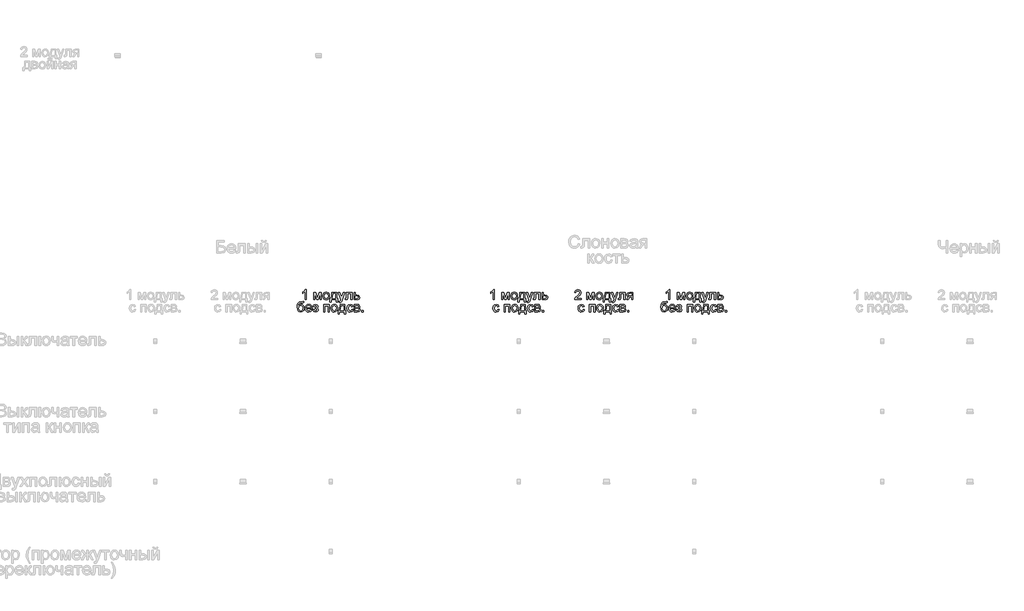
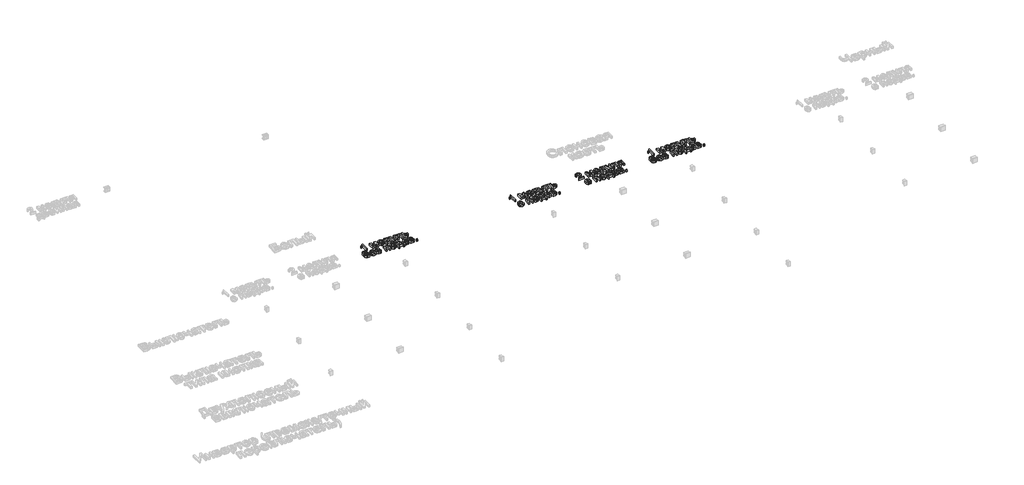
# One storey, part 20 of 47: 4 proxies.
"""IFC4 building model written with IfcOpenShell, lengths in millimetres."""

from ifc_helpers import new_model, si_unit, origin, origin_with_axes, place, context, project, spatial, polyline, outline, extrude, element, save

model = new_model("IFC4")

# Units and contexts
model_context = context("Model", 3, world=origin())
ifc_project = project(units=[si_unit("LENGTHUNIT", "METRE", prefix="MILLI")], contexts=[model_context])

# Site, building, storey
site = spatial("IfcSite", under=ifc_project)
building = spatial("IfcBuilding", under=site)
storey = spatial("IfcBuildingStorey", under=building, Name="Этаж 01", Elevation=0.0)

# Proxies
placement = place(None, origin())
element("IfcBuildingElementProxy", 1, Name="80 мм Arial", ObjectType="80 мм Arial", at=placement, inside=storey, context=model_context, shape_type="SweptSolid", body=[
    extrude(outline(polyline([(1510.6688941, -28300.056116), (1500.6232631, -28300.056116), (1500.6232631, -28237.4278852), (1491.1073822, -28244.2067241), (1480.5320011, -28249.2785905), (1480.5320011, -28239.78233), (1495.2570911, -28230.3841713), (1504.194171, -28219.6910679), (1510.6688941, -28219.6910679), (1510.6688941, -28300.056116)])), origin_with_axes(), (0.0, 0.0, 1.0), 20.0),
    extrude(outline(polyline([(1568.4312724, -28241.0380338), (1585.7168211, -28241.0380338), (1599.0390544, -28288.2838922), (1613.4011675, -28241.0380338), (1629.9607624, -28241.0380338), (1629.9607624, -28300.056116), (1619.9151314, -28300.056116), (1619.9151314, -28252.5355725), (1605.4745368, -28300.056116), (1592.2896461, -28300.056116), (1578.4769035, -28250.2596092), (1578.4769035, -28300.056116), (1568.4312724, -28300.056116), (1568.4312724, -28241.0380338)])), origin_with_axes(), (0.0, 0.0, 1.0), 20.0),
    extrude(outline(polyline([(1642.5178012, -28270.5470749), (1644.6907575, -28256.3173994), (1651.2096265, -28246.3159142), (1659.2637896, -28241.415726), (1668.907203, -28239.78233), (1679.4605111, -28241.7713453), (1687.8899139, -28247.7383912), (1693.4155015, -28257.2125789), (1695.257364, -28269.7230193), (1692.0003821, -28287.5971791), (1682.5139317, -28297.7114815), (1668.907203, -28301.3118199), (1658.2263624, -28299.3301622), (1649.8067698, -28293.3851892), (1644.3400433, -28283.7123453), (1642.5178012, -28270.5470749)]), holes=[polyline([(1652.5634322, -28270.5274546), (1657.2134606, -28286.0962206), (1668.907203, -28291.2661889), (1680.5617046, -28286.06679), (1685.211733, -28270.2135286), (1680.532274, -28254.9979293), (1668.907203, -28249.827961), (1657.2134606, -28254.9783089), (1652.5634322, -28270.5274546)])]), origin_with_axes(), (0.0, 0.0, 1.0), 20.0),
    extrude(outline(polyline([(1715.348626, -28241.0380338), (1753.0197423, -28241.0380338), (1753.0197423, -28290.010485), (1760.5539656, -28290.010485), (1760.5539656, -28316.3802664), (1750.5083346, -28316.3802664), (1750.5083346, -28300.056116), (1709.0701067, -28300.056116), (1709.0701067, -28316.3802664), (1699.0244756, -28316.3802664), (1699.0244756, -28290.010485), (1705.302995, -28290.010485), (1713.0628526, -28270.8511907), (1715.348626, -28241.0380338)]), holes=[polyline([(1724.1385532, -28251.0836649), (1721.7841084, -28273.97083), (1716.6043299, -28290.010485), (1742.9741113, -28290.010485), (1742.9741113, -28251.0836649), (1724.1385532, -28251.0836649)])]), origin_with_axes(), (0.0, 0.0, 1.0), 20.0),
    extrude(outline(polyline([(1771.8553005, -28322.6587858), (1770.5995966, -28312.9859419), (1775.7008936, -28313.8688587), (1780.4686443, -28312.7603076), (1783.3920799, -28309.6700989), (1786.1389321, -28302.2732182), (1786.923747, -28299.8402919), (1765.5767811, -28241.0380338), (1776.1717826, -28241.0380338), (1787.4927378, -28273.8040569), (1791.4364328, -28286.9104661), (1795.3801278, -28275.334446), (1807.0150091, -28241.0380338), (1817.531529, -28241.0380338), (1796.9889984, -28301.4687829), (1791.6522569, -28314.5751921), (1785.8250061, -28321.6581468), (1777.9964773, -28323.9144897), (1771.8553005, -28322.6587858)])), origin_with_axes(), (0.0, 0.0, 1.0), 20.0),
    extrude(outline(polyline([(1830.8733827, -28241.0380338), (1876.0787223, -28241.0380338), (1876.0787223, -28299.9972549), (1866.0330913, -28299.9972549), (1866.0330913, -28251.0836649), (1840.9190137, -28251.0836649), (1840.9190137, -28279.2389002), (1840.2421109, -28292.2275872), (1836.5240502, -28297.7114815), (1827.734123, -28300.056116), (1819.5720478, -28299.5459863), (1819.5720478, -28290.010485), (1824.0651133, -28290.010485), (1828.6072296, -28289.3924433), (1830.4221141, -28287.430406), (1830.8733827, -28278.6699094), (1830.8733827, -28241.0380338)])), origin_with_axes(), (0.0, 0.0, 1.0), 20.0),
    extrude(outline(polyline([(1891.1471688, -28241.0380338), (1901.1927998, -28241.0380338), (1901.1927998, -28262.3849997), (1912.7688199, -28262.3849997), (1930.230952, -28267.4176254), (1934.8221193, -28273.4042918), (1936.3525084, -28281.2990394), (1931.1432993, -28294.5526014), (1924.3718181, -28298.6802374), (1914.4757924, -28300.056116), (1891.1471688, -28300.056116), (1891.1471688, -28241.0380338)]), holes=[polyline([(1901.1927998, -28290.010485), (1910.5713381, -28290.010485), (1922.6869185, -28287.9012949), (1926.3068774, -28281.3186598), (1923.6286964, -28275.1382422), (1911.7681809, -28272.4306308), (1901.1927998, -28272.4306308), (1901.1927998, -28290.010485)])]), origin_with_axes(), (0.0, 0.0, 1.0), 20.0),
    extrude(outline(polyline([(1482.4155569, -28316.0152183), (1491.205484, -28316.0152183), (1488.6155948, -28323.8535574), (1483.4946774, -28326.6887013), (1471.1927035, -28327.3165532), (1454.6232984, -28329.6317572), (1448.2662975, -28337.0482583), (1446.1178667, -28350.1742879), (1454.8195022, -28340.560305), (1466.0325454, -28337.3621842), (1476.4852991, -28339.3953454), (1484.9662054, -28345.4948289), (1490.5874423, -28355.0622133), (1492.4611879, -28367.4990773), (1488.7431272, -28384.784626), (1479.9237695, -28395.2128543), (1466.0325454, -28398.8916742), (1450.1694737, -28394.1533541), (1441.4874586, -28382.0279635), (1438.4659212, -28356.2958443), (1440.3715499, -28337.0212803), (1446.0884361, -28325.2662242), (1455.7588275, -28319.2697477), (1469.5249718, -28317.2709222), (1480.7085844, -28317.0452879), (1482.4155569, -28316.0152183)]), holes=[polyline([(1482.4155569, -28367.1851513), (1478.0598341, -28352.9505706), (1472.8113843, -28348.7935041), (1465.7774805, -28347.4078153), (1458.4443661, -28348.8719856), (1453.0046176, -28353.2644966), (1448.5115522, -28368.9117441), (1453.4755066, -28383.7153156), (1465.7186194, -28388.8460432), (1472.4533125, -28387.3622525), (1477.7851488, -28382.9108803), (1482.4155569, -28367.1851513)])]), origin_with_axes(), (0.0, 0.0, 1.0), 20.0),
    extrude(outline(polyline([(1546.3387324, -28380.056116), (1556.1881596, -28381.3118199), (1546.9763945, -28394.2808865), (1529.8183782, -28398.8916742), (1518.0314391, -28396.9026589), (1508.9619217, -28390.9356129), (1503.1788167, -28381.3780387), (1501.251115, -28368.6174385), (1503.1984371, -28355.4276427), (1509.0404031, -28345.5635002), (1517.9872933, -28339.4125132), (1529.2493874, -28337.3621842), (1540.1607674, -28339.4076081), (1548.8795707, -28345.5438798), (1554.5964569, -28355.388402), (1556.5020856, -28368.5585774), (1556.4432245, -28371.2661889), (1511.2967461, -28371.2661889), (1517.0749459, -28384.313737), (1530.014582, -28388.8460432), (1539.8640092, -28386.7466633), (1546.3387324, -28380.056116)]), holes=[polyline([(1511.2967461, -28361.2205579), (1546.4564546, -28361.2205579), (1542.4342781, -28352.1167048), (1529.2101467, -28347.4078153), (1516.8395014, -28351.1651167), (1511.2967461, -28361.2205579)])]), origin_with_axes(), (0.0, 0.0, 1.0), 20.0),
    extrude(outline(polyline([(1580.3604593, -28371.2661889), (1580.3604593, -28361.2205579), (1588.28709, -28360.8281504), (1592.2896461, -28358.7385807), (1594.1732019, -28354.3730477), (1591.651984, -28349.3011813), (1585.1478303, -28347.4078153), (1578.4278525, -28349.2913711), (1574.0819399, -28354.9420385), (1562.780605, -28353.6863346), (1570.3344486, -28341.4432218), (1584.1275709, -28337.3621842), (1598.8820915, -28342.3359488), (1604.2188329, -28354.2160847), (1602.3205618, -28360.4553633), (1596.6257486, -28365.2819751), (1603.2672448, -28371.5408741), (1605.4745368, -28380.5466254), (1604.0741327, -28387.9410535), (1599.8729203, -28393.8001874), (1584.2060524, -28398.8916742), (1568.7550086, -28394.1827847), (1561.5249011, -28380.056116), (1572.826236, -28378.8004122), (1577.3585422, -28386.2169132), (1585.1674507, -28388.8460432), (1592.5054702, -28386.3248252), (1595.4289058, -28379.8795327), (1593.6140213, -28374.6016523), (1589.7488078, -28371.7763186), (1582.3224966, -28371.2073278), (1580.3604593, -28371.2661889)])), origin_with_axes(), (0.0, 0.0, 1.0), 20.0),
    extrude(outline(polyline([(1649.4241725, -28338.6178881), (1694.6295121, -28338.6178881), (1694.6295121, -28397.6359703), (1684.5838811, -28397.6359703), (1684.5838811, -28348.6635191), (1659.4698035, -28348.6635191), (1659.4698035, -28397.6359703), (1649.4241725, -28397.6359703), (1649.4241725, -28338.6178881)])), origin_with_axes(), (0.0, 0.0, 1.0), 20.0),
    extrude(outline(polyline([(1707.1865508, -28368.1269292), (1709.3595072, -28353.8972536), (1715.8783761, -28343.8957685), (1723.9325393, -28338.9955803), (1733.5759526, -28337.3621842), (1744.1292608, -28339.3511996), (1752.5586636, -28345.3182455), (1758.0842511, -28354.7924332), (1759.9261137, -28367.3028736), (1756.6691317, -28385.1770334), (1747.1826814, -28395.2913357), (1733.5759526, -28398.8916742), (1722.895112, -28396.9100165), (1714.4755194, -28390.9650435), (1709.008793, -28381.2921996), (1707.1865508, -28368.1269292)]), holes=[polyline([(1717.2321819, -28368.1073088), (1721.8822103, -28383.6760749), (1733.5759526, -28388.8460432), (1745.2304542, -28383.6466443), (1749.8804827, -28367.7933829), (1745.2010237, -28352.5777836), (1733.5759526, -28347.4078153), (1721.8822103, -28352.5581632), (1717.2321819, -28368.1073088)])]), origin_with_axes(), (0.0, 0.0, 1.0), 20.0),
    extrude(outline(polyline([(1780.0173757, -28338.6178881), (1817.688492, -28338.6178881), (1817.688492, -28387.5903393), (1825.2227153, -28387.5903393), (1825.2227153, -28413.9601207), (1815.1770843, -28413.9601207), (1815.1770843, -28397.6359703), (1773.7388563, -28397.6359703), (1773.7388563, -28413.9601207), (1763.6932253, -28413.9601207), (1763.6932253, -28387.5903393), (1769.9717447, -28387.5903393), (1777.7316022, -28368.431045), (1780.0173757, -28338.6178881)]), holes=[polyline([(1788.8073028, -28348.6635191), (1786.4528581, -28371.5506843), (1781.2730796, -28387.5903393), (1807.642861, -28387.5903393), (1807.642861, -28348.6635191), (1788.8073028, -28348.6635191)])]), origin_with_axes(), (0.0, 0.0, 1.0), 20.0),
    extrude(outline(polyline([(1874.1951665, -28376.2890044), (1884.2407975, -28377.5447083), (1881.4399892, -28386.4793357), (1876.1768241, -28393.2311966), (1860.2450812, -28398.8916742), (1849.5593355, -28396.9173742), (1841.2035091, -28390.994474), (1835.8103591, -28381.3829438), (1834.0126424, -28368.3427533), (1837.0832308, -28351.655626), (1846.4421487, -28340.9330921), (1860.1077386, -28337.3621842), (1875.382199, -28342.2672775), (1882.9850936, -28356.1977424), (1872.9394626, -28357.4534463), (1868.279624, -28349.9290332), (1860.1862201, -28347.4078153), (1848.5415287, -28352.3717696), (1844.0582734, -28368.0680681), (1848.4434268, -28383.9115194), (1859.9115349, -28388.8460432), (1869.3783649, -28385.7656446), (1874.1951665, -28376.2890044)])), origin_with_axes(), (0.0, 0.0, 1.0), 20.0),
    extrude(outline(polyline([(1893.0307246, -28338.6178881), (1915.1625054, -28338.6178881), (1927.2977062, -28339.9618837), (1934.125596, -28344.8865973), (1936.9803603, -28353.4705105), (1935.2537675, -28360.4455532), (1930.0543686, -28365.4193177), (1936.803777, -28370.8639713), (1939.4917681, -28380.3308013), (1933.7429988, -28393.3783494), (1918.55683, -28397.6359703), (1893.0307246, -28397.6359703), (1893.0307246, -28338.6178881)]), holes=[polyline([(1903.0763556, -28361.2205579), (1913.0042644, -28361.2205579), (1921.1957702, -28360.7104282), (1925.1787059, -28358.6699094), (1926.9347293, -28354.9812793), (1923.8543307, -28350.0565656), (1913.3181904, -28348.6635191), (1903.0763556, -28348.6635191), (1903.0763556, -28361.2205579)]), polyline([(1903.0763556, -28387.5903393), (1915.3979499, -28387.5903393), (1926.3264977, -28385.7754548), (1929.446137, -28379.5067456), (1927.7293544, -28374.6703236), (1923.2559093, -28371.8548001), (1914.4169313, -28371.2661889), (1903.0763556, -28371.2661889), (1903.0763556, -28387.5903393)])]), origin_with_axes(), (0.0, 0.0, 1.0), 20.0),
    extrude(outline(polyline([(1954.5602146, -28397.6359703), (1954.5602146, -28387.5903393), (1964.6058456, -28387.5903393), (1964.6058456, -28397.6359703), (1954.5602146, -28397.6359703)])), origin_with_axes(), (0.0, 0.0, 1.0), 20.0),
])
element("IfcBuildingElementProxy", 2, Name="80 мм Arial", ObjectType="80 мм Arial", at=placement, inside=storey, context=model_context, shape_type="SweptSolid", body=[
    extrude(outline(polyline([(3010.6688941, -28300.056116), (3000.6232631, -28300.056116), (3000.6232631, -28237.4278852), (2991.1073822, -28244.2067241), (2980.5320011, -28249.2785905), (2980.5320011, -28239.78233), (2995.2570911, -28230.3841713), (3004.194171, -28219.6910679), (3010.6688941, -28219.6910679), (3010.6688941, -28300.056116)])), origin_with_axes(), (0.0, 0.0, 1.0), 20.0),
    extrude(outline(polyline([(3068.4312724, -28241.0380338), (3085.7168211, -28241.0380338), (3099.0390544, -28288.2838922), (3113.4011675, -28241.0380338), (3129.9607624, -28241.0380338), (3129.9607624, -28300.056116), (3119.9151314, -28300.056116), (3119.9151314, -28252.5355725), (3105.4745368, -28300.056116), (3092.2896461, -28300.056116), (3078.4769035, -28250.2596092), (3078.4769035, -28300.056116), (3068.4312724, -28300.056116), (3068.4312724, -28241.0380338)])), origin_with_axes(), (0.0, 0.0, 1.0), 20.0),
    extrude(outline(polyline([(3142.5178012, -28270.5470749), (3144.6907575, -28256.3173994), (3151.2096265, -28246.3159142), (3159.2637896, -28241.415726), (3168.907203, -28239.78233), (3179.4605111, -28241.7713453), (3187.8899139, -28247.7383912), (3193.4155015, -28257.2125789), (3195.257364, -28269.7230193), (3192.0003821, -28287.5971791), (3182.5139317, -28297.7114815), (3168.907203, -28301.3118199), (3158.2263624, -28299.3301622), (3149.8067698, -28293.3851892), (3144.3400433, -28283.7123453), (3142.5178012, -28270.5470749)]), holes=[polyline([(3152.5634322, -28270.5274546), (3157.2134606, -28286.0962206), (3168.907203, -28291.2661889), (3180.5617046, -28286.06679), (3185.211733, -28270.2135286), (3180.532274, -28254.9979293), (3168.907203, -28249.827961), (3157.2134606, -28254.9783089), (3152.5634322, -28270.5274546)])]), origin_with_axes(), (0.0, 0.0, 1.0), 20.0),
    extrude(outline(polyline([(3215.348626, -28241.0380338), (3253.0197423, -28241.0380338), (3253.0197423, -28290.010485), (3260.5539656, -28290.010485), (3260.5539656, -28316.3802664), (3250.5083346, -28316.3802664), (3250.5083346, -28300.056116), (3209.0701067, -28300.056116), (3209.0701067, -28316.3802664), (3199.0244756, -28316.3802664), (3199.0244756, -28290.010485), (3205.302995, -28290.010485), (3213.0628526, -28270.8511907), (3215.348626, -28241.0380338)]), holes=[polyline([(3224.1385532, -28251.0836649), (3221.7841084, -28273.97083), (3216.6043299, -28290.010485), (3242.9741113, -28290.010485), (3242.9741113, -28251.0836649), (3224.1385532, -28251.0836649)])]), origin_with_axes(), (0.0, 0.0, 1.0), 20.0),
    extrude(outline(polyline([(3271.8553005, -28322.6587858), (3270.5995966, -28312.9859419), (3275.7008936, -28313.8688587), (3280.4686443, -28312.7603076), (3283.3920799, -28309.6700989), (3286.1389321, -28302.2732182), (3286.923747, -28299.8402919), (3265.5767811, -28241.0380338), (3276.1717826, -28241.0380338), (3287.4927378, -28273.8040569), (3291.4364328, -28286.9104661), (3295.3801278, -28275.334446), (3307.0150091, -28241.0380338), (3317.531529, -28241.0380338), (3296.9889984, -28301.4687829), (3291.6522569, -28314.5751921), (3285.8250061, -28321.6581468), (3277.9964773, -28323.9144897), (3271.8553005, -28322.6587858)])), origin_with_axes(), (0.0, 0.0, 1.0), 20.0),
    extrude(outline(polyline([(3330.8733827, -28241.0380338), (3376.0787223, -28241.0380338), (3376.0787223, -28299.9972549), (3366.0330913, -28299.9972549), (3366.0330913, -28251.0836649), (3340.9190137, -28251.0836649), (3340.9190137, -28279.2389002), (3340.2421109, -28292.2275872), (3336.5240502, -28297.7114815), (3327.734123, -28300.056116), (3319.5720478, -28299.5459863), (3319.5720478, -28290.010485), (3324.0651133, -28290.010485), (3328.6072296, -28289.3924433), (3330.4221141, -28287.430406), (3330.8733827, -28278.6699094), (3330.8733827, -28241.0380338)])), origin_with_axes(), (0.0, 0.0, 1.0), 20.0),
    extrude(outline(polyline([(3391.1471688, -28241.0380338), (3401.1927998, -28241.0380338), (3401.1927998, -28262.3849997), (3412.7688199, -28262.3849997), (3430.230952, -28267.4176254), (3434.8221193, -28273.4042918), (3436.3525084, -28281.2990394), (3431.1432993, -28294.5526014), (3424.3718181, -28298.6802374), (3414.4757924, -28300.056116), (3391.1471688, -28300.056116), (3391.1471688, -28241.0380338)]), holes=[polyline([(3401.1927998, -28290.010485), (3410.5713381, -28290.010485), (3422.6869185, -28287.9012949), (3426.3068774, -28281.3186598), (3423.6286964, -28275.1382422), (3411.7681809, -28272.4306308), (3401.1927998, -28272.4306308), (3401.1927998, -28290.010485)])]), origin_with_axes(), (0.0, 0.0, 1.0), 20.0),
    extrude(outline(polyline([(3038.9222313, -28376.2890044), (3048.9678624, -28377.5447083), (3046.1670541, -28386.4793357), (3040.903889, -28393.2311966), (3024.9721461, -28398.8916742), (3014.2864004, -28396.9173742), (3005.930574, -28390.994474), (3000.537424, -28381.3829438), (2998.7397073, -28368.3427533), (3001.8102957, -28351.655626), (3011.1692136, -28340.9330921), (3024.8348035, -28337.3621842), (3040.1092639, -28342.2672775), (3047.7121585, -28356.1977424), (3037.6665275, -28357.4534463), (3033.0066889, -28349.9290332), (3024.913285, -28347.4078153), (3013.2685935, -28352.3717696), (3008.7853383, -28368.0680681), (3013.1704917, -28383.9115194), (3024.6385997, -28388.8460432), (3034.1054298, -28385.7656446), (3038.9222313, -28376.2890044)])), origin_with_axes(), (0.0, 0.0, 1.0), 20.0),
    extrude(outline(polyline([(3089.1503864, -28338.6178881), (3134.355726, -28338.6178881), (3134.355726, -28397.6359703), (3124.310095, -28397.6359703), (3124.310095, -28348.6635191), (3099.1960174, -28348.6635191), (3099.1960174, -28397.6359703), (3089.1503864, -28397.6359703), (3089.1503864, -28338.6178881)])), origin_with_axes(), (0.0, 0.0, 1.0), 20.0),
    extrude(outline(polyline([(3146.9127648, -28368.1269292), (3149.0857211, -28353.8972536), (3155.60459, -28343.8957685), (3163.6587532, -28338.9955803), (3173.3021665, -28337.3621842), (3183.8554747, -28339.3511996), (3192.2848775, -28345.3182455), (3197.8104651, -28354.7924332), (3199.6523276, -28367.3028736), (3196.3953457, -28385.1770334), (3186.9088953, -28395.2913357), (3173.3021665, -28398.8916742), (3162.6213259, -28396.9100165), (3154.2017334, -28390.9650435), (3148.7350069, -28381.2921996), (3146.9127648, -28368.1269292)]), holes=[polyline([(3156.9583958, -28368.1073088), (3161.6084242, -28383.6760749), (3173.3021665, -28388.8460432), (3184.9566681, -28383.6466443), (3189.6066966, -28367.7933829), (3184.9272376, -28352.5777836), (3173.3021665, -28347.4078153), (3161.6084242, -28352.5581632), (3156.9583958, -28368.1073088)])]), origin_with_axes(), (0.0, 0.0, 1.0), 20.0),
    extrude(outline(polyline([(3219.7435896, -28338.6178881), (3257.4147059, -28338.6178881), (3257.4147059, -28387.5903393), (3264.9489292, -28387.5903393), (3264.9489292, -28413.9601207), (3254.9032982, -28413.9601207), (3254.9032982, -28397.6359703), (3213.4650702, -28397.6359703), (3213.4650702, -28413.9601207), (3203.4194392, -28413.9601207), (3203.4194392, -28387.5903393), (3209.6979586, -28387.5903393), (3217.4578161, -28368.431045), (3219.7435896, -28338.6178881)]), holes=[polyline([(3228.5335167, -28348.6635191), (3226.179072, -28371.5506843), (3220.9992935, -28387.5903393), (3247.3690749, -28387.5903393), (3247.3690749, -28348.6635191), (3228.5335167, -28348.6635191)])]), origin_with_axes(), (0.0, 0.0, 1.0), 20.0),
    extrude(outline(polyline([(3313.9213804, -28376.2890044), (3323.9670114, -28377.5447083), (3321.1662031, -28386.4793357), (3315.9030381, -28393.2311966), (3299.9712951, -28398.8916742), (3289.2855494, -28396.9173742), (3280.929723, -28390.994474), (3275.536573, -28381.3829438), (3273.7388563, -28368.3427533), (3276.8094447, -28351.655626), (3286.1683627, -28340.9330921), (3299.8339525, -28337.3621842), (3315.1084129, -28342.2672775), (3322.7113075, -28356.1977424), (3312.6656765, -28357.4534463), (3308.0058379, -28349.9290332), (3299.912434, -28347.4078153), (3288.2677426, -28352.3717696), (3283.7844873, -28368.0680681), (3288.1696407, -28383.9115194), (3299.6377488, -28388.8460432), (3309.1045788, -28385.7656446), (3313.9213804, -28376.2890044)])), origin_with_axes(), (0.0, 0.0, 1.0), 20.0),
    extrude(outline(polyline([(3332.7569385, -28338.6178881), (3354.8887194, -28338.6178881), (3367.0239201, -28339.9618837), (3373.8518099, -28344.8865973), (3376.7065742, -28353.4705105), (3374.9799814, -28360.4455532), (3369.7805825, -28365.4193177), (3376.5299909, -28370.8639713), (3379.217982, -28380.3308013), (3373.4692127, -28393.3783494), (3358.2830439, -28397.6359703), (3332.7569385, -28397.6359703), (3332.7569385, -28338.6178881)]), holes=[polyline([(3342.8025695, -28361.2205579), (3352.7304783, -28361.2205579), (3360.9219841, -28360.7104282), (3364.9049198, -28358.6699094), (3366.6609432, -28354.9812793), (3363.5805446, -28350.0565656), (3353.0444043, -28348.6635191), (3342.8025695, -28348.6635191), (3342.8025695, -28361.2205579)]), polyline([(3342.8025695, -28387.5903393), (3355.1241638, -28387.5903393), (3366.0527116, -28385.7754548), (3369.172351, -28379.5067456), (3367.4555683, -28374.6703236), (3362.9821233, -28371.8548001), (3354.1431452, -28371.2661889), (3342.8025695, -28371.2661889), (3342.8025695, -28387.5903393)])]), origin_with_axes(), (0.0, 0.0, 1.0), 20.0),
    extrude(outline(polyline([(3394.2864285, -28397.6359703), (3394.2864285, -28387.5903393), (3404.3320595, -28387.5903393), (3404.3320595, -28397.6359703), (3394.2864285, -28397.6359703)])), origin_with_axes(), (0.0, 0.0, 1.0), 20.0),
])
element("IfcBuildingElementProxy", 3, Name="80 мм Arial", ObjectType="80 мм Arial", at=placement, inside=storey, context=model_context, shape_type="SweptSolid", body=[
    extrude(outline(polyline([(3703.2259329, -28290.010485), (3703.2259329, -28300.056116), (3650.4863701, -28300.056116), (3651.5654906, -28293.1301244), (3657.6674266, -28282.4664516), (3670.2440857, -28270.8217602), (3687.5884955, -28254.0855819), (3691.924598, -28242.7057655), (3687.8337502, -28233.4940004), (3677.1504571, -28229.7366989), (3666.0158953, -28233.4057087), (3661.7877049, -28243.5494416), (3651.7420739, -28242.2937377), (3654.1774527, -28232.5767479), (3659.4430704, -28225.479078), (3667.2642416, -28221.1380704), (3677.3662812, -28219.6910679), (3687.5418972, -28221.2999385), (3695.3483531, -28226.1265503), (3700.31476, -28233.3370374), (3701.970229, -28242.097534), (3700.1847751, -28251.6232251), (3694.2496122, -28261.4726524), (3679.8580685, -28275.2363441), (3668.3016688, -28284.8993778), (3663.7693626, -28290.010485), (3703.2259329, -28290.010485)])), origin_with_axes(), (0.0, 0.0, 1.0), 20.0),
    extrude(outline(polyline([(3747.1755686, -28241.0380338), (3764.4611173, -28241.0380338), (3777.7833506, -28288.2838922), (3792.1454637, -28241.0380338), (3808.7050585, -28241.0380338), (3808.7050585, -28300.056116), (3798.6594275, -28300.056116), (3798.6594275, -28252.5355725), (3784.2188329, -28300.056116), (3771.0339422, -28300.056116), (3757.2211996, -28250.2596092), (3757.2211996, -28300.056116), (3747.1755686, -28300.056116), (3747.1755686, -28241.0380338)])), origin_with_axes(), (0.0, 0.0, 1.0), 20.0),
    extrude(outline(polyline([(3821.2620973, -28270.5470749), (3823.4350536, -28256.3173994), (3829.9539226, -28246.3159142), (3838.0080857, -28241.415726), (3847.6514991, -28239.78233), (3858.2048073, -28241.7713453), (3866.63421, -28247.7383912), (3872.1597976, -28257.2125789), (3874.0016601, -28269.7230193), (3870.7446782, -28287.5971791), (3861.2582278, -28297.7114815), (3847.6514991, -28301.3118199), (3836.9706585, -28299.3301622), (3828.5510659, -28293.3851892), (3823.0843395, -28283.7123453), (3821.2620973, -28270.5470749)]), holes=[polyline([(3831.3077283, -28270.5274546), (3835.9577567, -28286.0962206), (3847.6514991, -28291.2661889), (3859.3060007, -28286.06679), (3863.9560291, -28270.2135286), (3859.2765701, -28254.9979293), (3847.6514991, -28249.827961), (3835.9577567, -28254.9783089), (3831.3077283, -28270.5274546)])]), origin_with_axes(), (0.0, 0.0, 1.0), 20.0),
    extrude(outline(polyline([(3894.0929222, -28241.0380338), (3931.7640385, -28241.0380338), (3931.7640385, -28290.010485), (3939.2982617, -28290.010485), (3939.2982617, -28316.3802664), (3929.2526307, -28316.3802664), (3929.2526307, -28300.056116), (3887.8144028, -28300.056116), (3887.8144028, -28316.3802664), (3877.7687718, -28316.3802664), (3877.7687718, -28290.010485), (3884.0472911, -28290.010485), (3891.8071487, -28270.8511907), (3894.0929222, -28241.0380338)]), holes=[polyline([(3902.8828493, -28251.0836649), (3900.5284045, -28273.97083), (3895.348626, -28290.010485), (3921.7184075, -28290.010485), (3921.7184075, -28251.0836649), (3902.8828493, -28251.0836649)])]), origin_with_axes(), (0.0, 0.0, 1.0), 20.0),
    extrude(outline(polyline([(3950.5995966, -28322.6587858), (3949.3438927, -28312.9859419), (3954.4451897, -28313.8688587), (3959.2129404, -28312.7603076), (3962.136376, -28309.6700989), (3964.8832282, -28302.2732182), (3965.6680431, -28299.8402919), (3944.3210772, -28241.0380338), (3954.9160787, -28241.0380338), (3966.237034, -28273.8040569), (3970.180729, -28286.9104661), (3974.1244239, -28275.334446), (3985.7593052, -28241.0380338), (3996.2758251, -28241.0380338), (3975.7332945, -28301.4687829), (3970.3965531, -28314.5751921), (3964.5693023, -28321.6581468), (3956.7407734, -28323.9144897), (3950.5995966, -28322.6587858)])), origin_with_axes(), (0.0, 0.0, 1.0), 20.0),
    extrude(outline(polyline([(4009.6176788, -28241.0380338), (4054.8230184, -28241.0380338), (4054.8230184, -28299.9972549), (4044.7773874, -28299.9972549), (4044.7773874, -28251.0836649), (4019.6633099, -28251.0836649), (4019.6633099, -28279.2389002), (4018.986407, -28292.2275872), (4015.2683463, -28297.7114815), (4006.4784191, -28300.056116), (3998.3163439, -28299.5459863), (3998.3163439, -28290.010485), (4002.8094094, -28290.010485), (4007.3515257, -28289.3924433), (4009.1664103, -28287.430406), (4009.6176788, -28278.6699094), (4009.6176788, -28241.0380338)])), origin_with_axes(), (0.0, 0.0, 1.0), 20.0),
    extrude(outline(polyline([(4115.0968045, -28241.0380338), (4115.0968045, -28300.056116), (4105.0511735, -28300.056116), (4105.0511735, -28277.4534463), (4099.5770894, -28277.4534463), (4092.1213476, -28278.7287705), (4085.1168744, -28287.3028736), (4077.1117622, -28300.056116), (4065.4965014, -28300.056116), (4075.5813731, -28283.9281694), (4084.1358558, -28275.5698905), (4072.4421134, -28269.4679544), (4068.635761, -28258.088138), (4073.8351599, -28245.7665437), (4088.8839861, -28241.0380338), (4115.0968045, -28241.0380338)]), holes=[polyline([(4105.0511735, -28251.0836649), (4091.8074217, -28251.0836649), (4081.0848878, -28253.4086791), (4078.6813921, -28258.8533326), (4082.2228694, -28265.3378659), (4094.770098, -28267.4078153), (4105.0511735, -28267.4078153), (4105.0511735, -28251.0836649)])]), origin_with_axes(), (0.0, 0.0, 1.0), 20.0),
    extrude(outline(polyline([(3718.9222313, -28376.2890044), (3728.9678624, -28377.5447083), (3726.1670541, -28386.4793357), (3720.903889, -28393.2311966), (3704.9721461, -28398.8916742), (3694.2864004, -28396.9173742), (3685.930574, -28390.994474), (3680.537424, -28381.3829438), (3678.7397073, -28368.3427533), (3681.8102957, -28351.655626), (3691.1692136, -28340.9330921), (3704.8348035, -28337.3621842), (3720.1092639, -28342.2672775), (3727.7121585, -28356.1977424), (3717.6665275, -28357.4534463), (3713.0066889, -28349.9290332), (3704.913285, -28347.4078153), (3693.2685935, -28352.3717696), (3688.7853383, -28368.0680681), (3693.1704917, -28383.9115194), (3704.6385997, -28388.8460432), (3714.1054298, -28385.7656446), (3718.9222313, -28376.2890044)])), origin_with_axes(), (0.0, 0.0, 1.0), 20.0),
    extrude(outline(polyline([(3769.1503864, -28338.6178881), (3814.355726, -28338.6178881), (3814.355726, -28397.6359703), (3804.310095, -28397.6359703), (3804.310095, -28348.6635191), (3779.1960174, -28348.6635191), (3779.1960174, -28397.6359703), (3769.1503864, -28397.6359703), (3769.1503864, -28338.6178881)])), origin_with_axes(), (0.0, 0.0, 1.0), 20.0),
    extrude(outline(polyline([(3826.9127648, -28368.1269292), (3829.0857211, -28353.8972536), (3835.60459, -28343.8957685), (3843.6587532, -28338.9955803), (3853.3021665, -28337.3621842), (3863.8554747, -28339.3511996), (3872.2848775, -28345.3182455), (3877.8104651, -28354.7924332), (3879.6523276, -28367.3028736), (3876.3953457, -28385.1770334), (3866.9088953, -28395.2913357), (3853.3021665, -28398.8916742), (3842.6213259, -28396.9100165), (3834.2017334, -28390.9650435), (3828.7350069, -28381.2921996), (3826.9127648, -28368.1269292)]), holes=[polyline([(3836.9583958, -28368.1073088), (3841.6084242, -28383.6760749), (3853.3021665, -28388.8460432), (3864.9566681, -28383.6466443), (3869.6066966, -28367.7933829), (3864.9272376, -28352.5777836), (3853.3021665, -28347.4078153), (3841.6084242, -28352.5581632), (3836.9583958, -28368.1073088)])]), origin_with_axes(), (0.0, 0.0, 1.0), 20.0),
    extrude(outline(polyline([(3899.7435896, -28338.6178881), (3937.4147059, -28338.6178881), (3937.4147059, -28387.5903393), (3944.9489292, -28387.5903393), (3944.9489292, -28413.9601207), (3934.9032982, -28413.9601207), (3934.9032982, -28397.6359703), (3893.4650702, -28397.6359703), (3893.4650702, -28413.9601207), (3883.4194392, -28413.9601207), (3883.4194392, -28387.5903393), (3889.6979586, -28387.5903393), (3897.4578161, -28368.431045), (3899.7435896, -28338.6178881)]), holes=[polyline([(3908.5335167, -28348.6635191), (3906.179072, -28371.5506843), (3900.9992935, -28387.5903393), (3927.3690749, -28387.5903393), (3927.3690749, -28348.6635191), (3908.5335167, -28348.6635191)])]), origin_with_axes(), (0.0, 0.0, 1.0), 20.0),
    extrude(outline(polyline([(3993.9213804, -28376.2890044), (4003.9670114, -28377.5447083), (4001.1662031, -28386.4793357), (3995.9030381, -28393.2311966), (3979.9712951, -28398.8916742), (3969.2855494, -28396.9173742), (3960.929723, -28390.994474), (3955.536573, -28381.3829438), (3953.7388563, -28368.3427533), (3956.8094447, -28351.655626), (3966.1683627, -28340.9330921), (3979.8339525, -28337.3621842), (3995.1084129, -28342.2672775), (4002.7113075, -28356.1977424), (3992.6656765, -28357.4534463), (3988.0058379, -28349.9290332), (3979.912434, -28347.4078153), (3968.2677426, -28352.3717696), (3963.7844873, -28368.0680681), (3968.1696407, -28383.9115194), (3979.6377488, -28388.8460432), (3989.1045788, -28385.7656446), (3993.9213804, -28376.2890044)])), origin_with_axes(), (0.0, 0.0, 1.0), 20.0),
    extrude(outline(polyline([(4012.7569385, -28338.6178881), (4034.8887194, -28338.6178881), (4047.0239201, -28339.9618837), (4053.8518099, -28344.8865973), (4056.7065742, -28353.4705105), (4054.9799814, -28360.4455532), (4049.7805825, -28365.4193177), (4056.5299909, -28370.8639713), (4059.217982, -28380.3308013), (4053.4692127, -28393.3783494), (4038.2830439, -28397.6359703), (4012.7569385, -28397.6359703), (4012.7569385, -28338.6178881)]), holes=[polyline([(4022.8025695, -28361.2205579), (4032.7304783, -28361.2205579), (4040.9219841, -28360.7104282), (4044.9049198, -28358.6699094), (4046.6609432, -28354.9812793), (4043.5805446, -28350.0565656), (4033.0444043, -28348.6635191), (4022.8025695, -28348.6635191), (4022.8025695, -28361.2205579)]), polyline([(4022.8025695, -28387.5903393), (4035.1241638, -28387.5903393), (4046.0527116, -28385.7754548), (4049.172351, -28379.5067456), (4047.4555683, -28374.6703236), (4042.9821233, -28371.8548001), (4034.1431452, -28371.2661889), (4022.8025695, -28371.2661889), (4022.8025695, -28387.5903393)])]), origin_with_axes(), (0.0, 0.0, 1.0), 20.0),
    extrude(outline(polyline([(4074.2864285, -28397.6359703), (4074.2864285, -28387.5903393), (4084.3320595, -28387.5903393), (4084.3320595, -28397.6359703), (4074.2864285, -28397.6359703)])), origin_with_axes(), (0.0, 0.0, 1.0), 20.0),
])
element("IfcBuildingElementProxy", 4, Name="80 мм Arial", ObjectType="80 мм Arial", at=placement, inside=storey, context=model_context, shape_type="SweptSolid", body=[
    extrude(outline(polyline([(4410.6688941, -28300.056116), (4400.6232631, -28300.056116), (4400.6232631, -28237.4278852), (4391.1073822, -28244.2067241), (4380.5320011, -28249.2785905), (4380.5320011, -28239.78233), (4395.2570911, -28230.3841713), (4404.194171, -28219.6910679), (4410.6688941, -28219.6910679), (4410.6688941, -28300.056116)])), origin_with_axes(), (0.0, 0.0, 1.0), 20.0),
    extrude(outline(polyline([(4468.4312724, -28241.0380338), (4485.7168211, -28241.0380338), (4499.0390544, -28288.2838922), (4513.4011675, -28241.0380338), (4529.9607624, -28241.0380338), (4529.9607624, -28300.056116), (4519.9151314, -28300.056116), (4519.9151314, -28252.5355725), (4505.4745368, -28300.056116), (4492.2896461, -28300.056116), (4478.4769035, -28250.2596092), (4478.4769035, -28300.056116), (4468.4312724, -28300.056116), (4468.4312724, -28241.0380338)])), origin_with_axes(), (0.0, 0.0, 1.0), 20.0),
    extrude(outline(polyline([(4542.5178012, -28270.5470749), (4544.6907575, -28256.3173994), (4551.2096265, -28246.3159142), (4559.2637896, -28241.415726), (4568.907203, -28239.78233), (4579.4605111, -28241.7713453), (4587.8899139, -28247.7383912), (4593.4155015, -28257.2125789), (4595.257364, -28269.7230193), (4592.0003821, -28287.5971791), (4582.5139317, -28297.7114815), (4568.907203, -28301.3118199), (4558.2263624, -28299.3301622), (4549.8067698, -28293.3851892), (4544.3400433, -28283.7123453), (4542.5178012, -28270.5470749)]), holes=[polyline([(4552.5634322, -28270.5274546), (4557.2134606, -28286.0962206), (4568.907203, -28291.2661889), (4580.5617046, -28286.06679), (4585.211733, -28270.2135286), (4580.532274, -28254.9979293), (4568.907203, -28249.827961), (4557.2134606, -28254.9783089), (4552.5634322, -28270.5274546)])]), origin_with_axes(), (0.0, 0.0, 1.0), 20.0),
    extrude(outline(polyline([(4615.348626, -28241.0380338), (4653.0197423, -28241.0380338), (4653.0197423, -28290.010485), (4660.5539656, -28290.010485), (4660.5539656, -28316.3802664), (4650.5083346, -28316.3802664), (4650.5083346, -28300.056116), (4609.0701067, -28300.056116), (4609.0701067, -28316.3802664), (4599.0244756, -28316.3802664), (4599.0244756, -28290.010485), (4605.302995, -28290.010485), (4613.0628526, -28270.8511907), (4615.348626, -28241.0380338)]), holes=[polyline([(4624.1385532, -28251.0836649), (4621.7841084, -28273.97083), (4616.6043299, -28290.010485), (4642.9741113, -28290.010485), (4642.9741113, -28251.0836649), (4624.1385532, -28251.0836649)])]), origin_with_axes(), (0.0, 0.0, 1.0), 20.0),
    extrude(outline(polyline([(4671.8553005, -28322.6587858), (4670.5995966, -28312.9859419), (4675.7008936, -28313.8688587), (4680.4686443, -28312.7603076), (4683.3920799, -28309.6700989), (4686.1389321, -28302.2732182), (4686.923747, -28299.8402919), (4665.5767811, -28241.0380338), (4676.1717826, -28241.0380338), (4687.4927378, -28273.8040569), (4691.4364328, -28286.9104661), (4695.3801278, -28275.334446), (4707.0150091, -28241.0380338), (4717.531529, -28241.0380338), (4696.9889984, -28301.4687829), (4691.6522569, -28314.5751921), (4685.8250061, -28321.6581468), (4677.9964773, -28323.9144897), (4671.8553005, -28322.6587858)])), origin_with_axes(), (0.0, 0.0, 1.0), 20.0),
    extrude(outline(polyline([(4730.8733827, -28241.0380338), (4776.0787223, -28241.0380338), (4776.0787223, -28299.9972549), (4766.0330913, -28299.9972549), (4766.0330913, -28251.0836649), (4740.9190137, -28251.0836649), (4740.9190137, -28279.2389002), (4740.2421109, -28292.2275872), (4736.5240502, -28297.7114815), (4727.734123, -28300.056116), (4719.5720478, -28299.5459863), (4719.5720478, -28290.010485), (4724.0651133, -28290.010485), (4728.6072296, -28289.3924433), (4730.4221141, -28287.430406), (4730.8733827, -28278.6699094), (4730.8733827, -28241.0380338)])), origin_with_axes(), (0.0, 0.0, 1.0), 20.0),
    extrude(outline(polyline([(4791.1471688, -28241.0380338), (4801.1927998, -28241.0380338), (4801.1927998, -28262.3849997), (4812.7688199, -28262.3849997), (4830.230952, -28267.4176254), (4834.8221193, -28273.4042918), (4836.3525084, -28281.2990394), (4831.1432993, -28294.5526014), (4824.3718181, -28298.6802374), (4814.4757924, -28300.056116), (4791.1471688, -28300.056116), (4791.1471688, -28241.0380338)]), holes=[polyline([(4801.1927998, -28290.010485), (4810.5713381, -28290.010485), (4822.6869185, -28287.9012949), (4826.3068774, -28281.3186598), (4823.6286964, -28275.1382422), (4811.7681809, -28272.4306308), (4801.1927998, -28272.4306308), (4801.1927998, -28290.010485)])]), origin_with_axes(), (0.0, 0.0, 1.0), 20.0),
    extrude(outline(polyline([(4382.4155569, -28316.0152183), (4391.205484, -28316.0152183), (4388.6155948, -28323.8535574), (4383.4946774, -28326.6887013), (4371.1927035, -28327.3165532), (4354.6232984, -28329.6317572), (4348.2662975, -28337.0482583), (4346.1178667, -28350.1742879), (4354.8195022, -28340.560305), (4366.0325454, -28337.3621842), (4376.4852991, -28339.3953454), (4384.9662054, -28345.4948289), (4390.5874423, -28355.0622133), (4392.4611879, -28367.4990773), (4388.7431272, -28384.784626), (4379.9237695, -28395.2128543), (4366.0325454, -28398.8916742), (4350.1694737, -28394.1533541), (4341.4874586, -28382.0279635), (4338.4659212, -28356.2958443), (4340.3715499, -28337.0212803), (4346.0884361, -28325.2662242), (4355.7588275, -28319.2697477), (4369.5249718, -28317.2709222), (4380.7085844, -28317.0452879), (4382.4155569, -28316.0152183)]), holes=[polyline([(4382.4155569, -28367.1851513), (4378.0598341, -28352.9505706), (4372.8113843, -28348.7935041), (4365.7774805, -28347.4078153), (4358.4443661, -28348.8719856), (4353.0046176, -28353.2644966), (4348.5115522, -28368.9117441), (4353.4755066, -28383.7153156), (4365.7186194, -28388.8460432), (4372.4533125, -28387.3622525), (4377.7851488, -28382.9108803), (4382.4155569, -28367.1851513)])]), origin_with_axes(), (0.0, 0.0, 1.0), 20.0),
    extrude(outline(polyline([(4446.3387324, -28380.056116), (4456.1881596, -28381.3118199), (4446.9763945, -28394.2808865), (4429.8183782, -28398.8916742), (4418.0314391, -28396.9026589), (4408.9619217, -28390.9356129), (4403.1788167, -28381.3780387), (4401.251115, -28368.6174385), (4403.1984371, -28355.4276427), (4409.0404031, -28345.5635002), (4417.9872933, -28339.4125132), (4429.2493874, -28337.3621842), (4440.1607674, -28339.4076081), (4448.8795707, -28345.5438798), (4454.5964569, -28355.388402), (4456.5020856, -28368.5585774), (4456.4432245, -28371.2661889), (4411.2967461, -28371.2661889), (4417.0749459, -28384.313737), (4430.014582, -28388.8460432), (4439.8640092, -28386.7466633), (4446.3387324, -28380.056116)]), holes=[polyline([(4411.2967461, -28361.2205579), (4446.4564546, -28361.2205579), (4442.4342781, -28352.1167048), (4429.2101467, -28347.4078153), (4416.8395014, -28351.1651167), (4411.2967461, -28361.2205579)])]), origin_with_axes(), (0.0, 0.0, 1.0), 20.0),
    extrude(outline(polyline([(4480.3604593, -28371.2661889), (4480.3604593, -28361.2205579), (4488.28709, -28360.8281504), (4492.2896461, -28358.7385807), (4494.1732019, -28354.3730477), (4491.651984, -28349.3011813), (4485.1478303, -28347.4078153), (4478.4278525, -28349.2913711), (4474.0819399, -28354.9420385), (4462.780605, -28353.6863346), (4470.3344486, -28341.4432218), (4484.1275709, -28337.3621842), (4498.8820915, -28342.3359488), (4504.2188329, -28354.2160847), (4502.3205618, -28360.4553633), (4496.6257486, -28365.2819751), (4503.2672448, -28371.5408741), (4505.4745368, -28380.5466254), (4504.0741327, -28387.9410535), (4499.8729203, -28393.8001874), (4484.2060524, -28398.8916742), (4468.7550086, -28394.1827847), (4461.5249011, -28380.056116), (4472.826236, -28378.8004122), (4477.3585422, -28386.2169132), (4485.1674507, -28388.8460432), (4492.5054702, -28386.3248252), (4495.4289058, -28379.8795327), (4493.6140213, -28374.6016523), (4489.7488078, -28371.7763186), (4482.3224966, -28371.2073278), (4480.3604593, -28371.2661889)])), origin_with_axes(), (0.0, 0.0, 1.0), 20.0),
    extrude(outline(polyline([(4549.4241725, -28338.6178881), (4594.6295121, -28338.6178881), (4594.6295121, -28397.6359703), (4584.5838811, -28397.6359703), (4584.5838811, -28348.6635191), (4559.4698035, -28348.6635191), (4559.4698035, -28397.6359703), (4549.4241725, -28397.6359703), (4549.4241725, -28338.6178881)])), origin_with_axes(), (0.0, 0.0, 1.0), 20.0),
    extrude(outline(polyline([(4607.1865508, -28368.1269292), (4609.3595072, -28353.8972536), (4615.8783761, -28343.8957685), (4623.9325393, -28338.9955803), (4633.5759526, -28337.3621842), (4644.1292608, -28339.3511996), (4652.5586636, -28345.3182455), (4658.0842511, -28354.7924332), (4659.9261137, -28367.3028736), (4656.6691317, -28385.1770334), (4647.1826814, -28395.2913357), (4633.5759526, -28398.8916742), (4622.895112, -28396.9100165), (4614.4755194, -28390.9650435), (4609.008793, -28381.2921996), (4607.1865508, -28368.1269292)]), holes=[polyline([(4617.2321819, -28368.1073088), (4621.8822103, -28383.6760749), (4633.5759526, -28388.8460432), (4645.2304542, -28383.6466443), (4649.8804827, -28367.7933829), (4645.2010237, -28352.5777836), (4633.5759526, -28347.4078153), (4621.8822103, -28352.5581632), (4617.2321819, -28368.1073088)])]), origin_with_axes(), (0.0, 0.0, 1.0), 20.0),
    extrude(outline(polyline([(4680.0173757, -28338.6178881), (4717.688492, -28338.6178881), (4717.688492, -28387.5903393), (4725.2227153, -28387.5903393), (4725.2227153, -28413.9601207), (4715.1770843, -28413.9601207), (4715.1770843, -28397.6359703), (4673.7388563, -28397.6359703), (4673.7388563, -28413.9601207), (4663.6932253, -28413.9601207), (4663.6932253, -28387.5903393), (4669.9717447, -28387.5903393), (4677.7316022, -28368.431045), (4680.0173757, -28338.6178881)]), holes=[polyline([(4688.8073028, -28348.6635191), (4686.4528581, -28371.5506843), (4681.2730796, -28387.5903393), (4707.642861, -28387.5903393), (4707.642861, -28348.6635191), (4688.8073028, -28348.6635191)])]), origin_with_axes(), (0.0, 0.0, 1.0), 20.0),
    extrude(outline(polyline([(4774.1951665, -28376.2890044), (4784.2407975, -28377.5447083), (4781.4399892, -28386.4793357), (4776.1768241, -28393.2311966), (4760.2450812, -28398.8916742), (4749.5593355, -28396.9173742), (4741.2035091, -28390.994474), (4735.8103591, -28381.3829438), (4734.0126424, -28368.3427533), (4737.0832308, -28351.655626), (4746.4421487, -28340.9330921), (4760.1077386, -28337.3621842), (4775.382199, -28342.2672775), (4782.9850936, -28356.1977424), (4772.9394626, -28357.4534463), (4768.279624, -28349.9290332), (4760.1862201, -28347.4078153), (4748.5415287, -28352.3717696), (4744.0582734, -28368.0680681), (4748.4434268, -28383.9115194), (4759.9115349, -28388.8460432), (4769.3783649, -28385.7656446), (4774.1951665, -28376.2890044)])), origin_with_axes(), (0.0, 0.0, 1.0), 20.0),
    extrude(outline(polyline([(4793.0307246, -28338.6178881), (4815.1625054, -28338.6178881), (4827.2977062, -28339.9618837), (4834.125596, -28344.8865973), (4836.9803603, -28353.4705105), (4835.2537675, -28360.4455532), (4830.0543686, -28365.4193177), (4836.803777, -28370.8639713), (4839.4917681, -28380.3308013), (4833.7429988, -28393.3783494), (4818.55683, -28397.6359703), (4793.0307246, -28397.6359703), (4793.0307246, -28338.6178881)]), holes=[polyline([(4803.0763556, -28361.2205579), (4813.0042644, -28361.2205579), (4821.1957702, -28360.7104282), (4825.1787059, -28358.6699094), (4826.9347293, -28354.9812793), (4823.8543307, -28350.0565656), (4813.3181904, -28348.6635191), (4803.0763556, -28348.6635191), (4803.0763556, -28361.2205579)]), polyline([(4803.0763556, -28387.5903393), (4815.3979499, -28387.5903393), (4826.3264977, -28385.7754548), (4829.446137, -28379.5067456), (4827.7293544, -28374.6703236), (4823.2559093, -28371.8548001), (4814.4169313, -28371.2661889), (4803.0763556, -28371.2661889), (4803.0763556, -28387.5903393)])]), origin_with_axes(), (0.0, 0.0, 1.0), 20.0),
    extrude(outline(polyline([(4854.5602146, -28397.6359703), (4854.5602146, -28387.5903393), (4864.6058456, -28387.5903393), (4864.6058456, -28397.6359703), (4854.5602146, -28397.6359703)])), origin_with_axes(), (0.0, 0.0, 1.0), 20.0),
])

save(model, "model.ifc")
